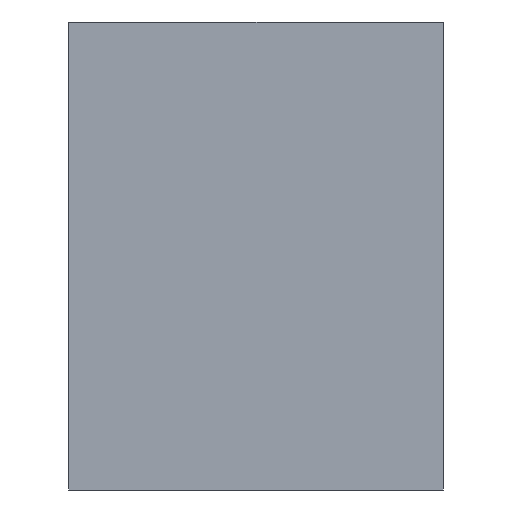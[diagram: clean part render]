
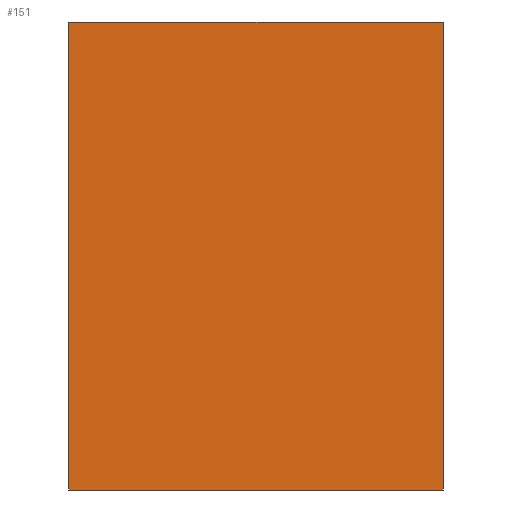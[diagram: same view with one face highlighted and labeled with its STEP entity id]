
A CAD part, left-side view. The second image highlights one B-rep face of the part: STEP entity #151.
In plain terms, the highlighted planar face has unit normal (-1, 0, 0).
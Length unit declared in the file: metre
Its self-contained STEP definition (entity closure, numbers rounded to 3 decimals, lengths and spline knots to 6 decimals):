
#44=ORIENTED_EDGE('',*,*,#61,.T.);
#45=ORIENTED_EDGE('',*,*,#71,.T.);
#46=ORIENTED_EDGE('',*,*,#72,.F.);
#47=ORIENTED_EDGE('',*,*,#63,.F.);
#61=EDGE_CURVE('',#79,#78,#91,.T.);
#63=EDGE_CURVE('',#79,#80,#93,.F.);
#71=EDGE_CURVE('',#78,#85,#101,.F.);
#72=EDGE_CURVE('',#80,#85,#102,.F.);
#78=VERTEX_POINT('',#215);
#79=VERTEX_POINT('',#217);
#80=VERTEX_POINT('',#221);
#85=VERTEX_POINT('',#235);
#91=LINE('',#216,#109);
#93=LINE('',#220,#111);
#101=LINE('',#236,#119);
#102=LINE('',#238,#120);
#109=VECTOR('',#178,1.);
#111=VECTOR('',#182,1.);
#119=VECTOR('',#194,1.);
#120=VECTOR('',#197,1.);
#127=EDGE_LOOP('',(#44,#45,#46,#47));
#135=FACE_BOUND('',#127,.T.);
#143=PLANE('',#164);
#151=ADVANCED_FACE('',(#135),#143,.F.);
#164=AXIS2_PLACEMENT_3D('',#237,#195,#196);
#178=DIRECTION('',(0.,1.,0.));
#182=DIRECTION('',(0.,0.,1.));
#194=DIRECTION('',(0.,0.,1.));
#195=DIRECTION('',(1.,0.,0.));
#196=DIRECTION('',(0.,1.,0.));
#197=DIRECTION('',(0.,-1.,0.));
#215=CARTESIAN_POINT('',(-0.023788,0.0008,-0.03));
#216=CARTESIAN_POINT('',(-0.023788,-0.0008,-0.03));
#217=CARTESIAN_POINT('',(-0.023788,-0.0008,-0.03));
#220=CARTESIAN_POINT('',(-0.023788,-0.0008,-0.03));
#221=CARTESIAN_POINT('',(-0.023788,-0.0008,-0.032));
#235=CARTESIAN_POINT('',(-0.023788,0.0008,-0.032));
#236=CARTESIAN_POINT('',(-0.023788,0.0008,-0.03));
#237=CARTESIAN_POINT('',(-0.023788,-0.0008,-0.03));
#238=CARTESIAN_POINT('',(-0.023788,0.,-0.032));
